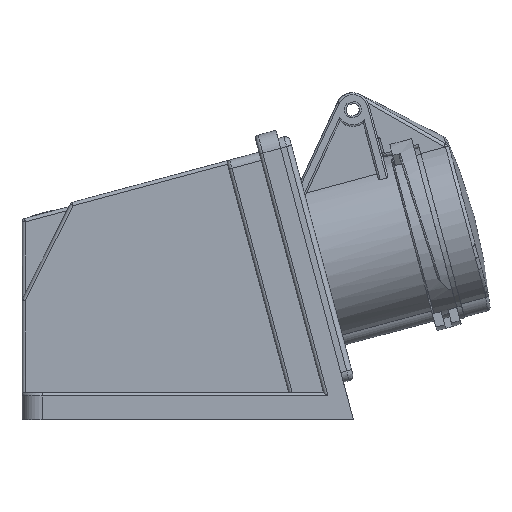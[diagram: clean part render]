
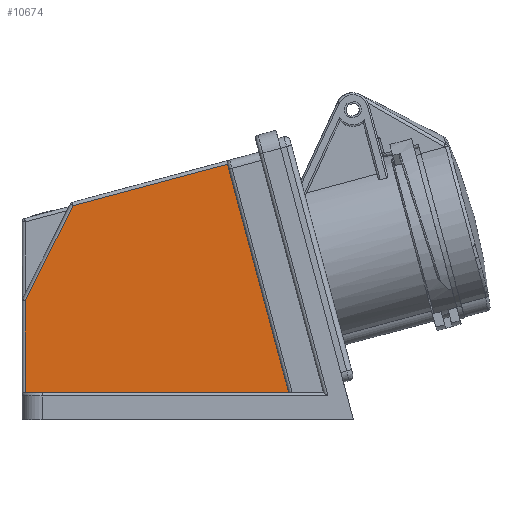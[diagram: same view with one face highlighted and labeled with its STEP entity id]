
A CAD part, left-side view. The second image highlights one B-rep face of the part: STEP entity #10674.
In plain terms, the highlighted planar face has unit normal (-1, 0, 0).
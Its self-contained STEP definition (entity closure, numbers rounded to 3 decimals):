
#5550 = VERTEX_POINT('',#5551);
#5551 = CARTESIAN_POINT('',(-28.5,-30.024,8.));
#5557 = EDGE_CURVE('',#5550,#5558,#5560,.T.);
#5558 = VERTEX_POINT('',#5559);
#5559 = CARTESIAN_POINT('',(-28.5,48.25,8.));
#5560 = LINE('',#5561,#5562);
#5561 = CARTESIAN_POINT('',(-28.5,-30.024,8.));
#5562 = VECTOR('',#5563,1.);
#5563 = DIRECTION('',(0.,1.,0.));
#5749 = EDGE_CURVE('',#5750,#5550,#5752,.T.);
#5750 = VERTEX_POINT('',#5751);
#5751 = CARTESIAN_POINT('',(-28.5,-11.83,75.901));
#5752 = LINE('',#5753,#5754);
#5753 = CARTESIAN_POINT('',(-28.5,-11.83,75.901));
#5754 = VECTOR('',#5755,1.);
#5755 = DIRECTION('',(0.,-0.259,-0.966));
#6250 = VERTEX_POINT('',#6251);
#6251 = CARTESIAN_POINT('',(-28.5,34.069,63.603));
#6273 = EDGE_CURVE('',#5750,#6250,#6274,.T.);
#6274 = LINE('',#6275,#6276);
#6275 = CARTESIAN_POINT('',(-28.5,-11.83,75.901));
#6276 = VECTOR('',#6277,1.);
#6277 = DIRECTION('',(0.,0.966,-0.259));
#10600 = EDGE_CURVE('',#6250,#10601,#10603,.T.);
#10601 = VERTEX_POINT('',#10602);
#10602 = CARTESIAN_POINT('',(-28.5,48.25,35.333));
#10603 = LINE('',#10604,#10605);
#10604 = CARTESIAN_POINT('',(-28.5,34.069,63.603));
#10605 = VECTOR('',#10606,1.);
#10606 = DIRECTION('',(0.,0.448,-0.894));
#10662 = EDGE_CURVE('',#10601,#5558,#10663,.T.);
#10663 = LINE('',#10664,#10665);
#10664 = CARTESIAN_POINT('',(-28.5,48.25,35.333));
#10665 = VECTOR('',#10666,1.);
#10666 = DIRECTION('',(0.,0.,-1.));
#10674 = ADVANCED_FACE('',(#10675),#10682,.F.);
#10675 = FACE_BOUND('',#10676,.T.);
#10676 = EDGE_LOOP('',(#10677,#10678,#10679,#10680,#10681));
#10677 = ORIENTED_EDGE('',*,*,#5557,.F.);
#10678 = ORIENTED_EDGE('',*,*,#5749,.F.);
#10679 = ORIENTED_EDGE('',*,*,#6273,.T.);
#10680 = ORIENTED_EDGE('',*,*,#10600,.T.);
#10681 = ORIENTED_EDGE('',*,*,#10662,.T.);
#10682 = PLANE('',#10683);
#10683 = AXIS2_PLACEMENT_3D('',#10684,#10685,#10686);
#10684 = CARTESIAN_POINT('',(-28.5,0.,0.));
#10685 = DIRECTION('',(1.,0.,0.));
#10686 = DIRECTION('',(0.,-1.,0.));
